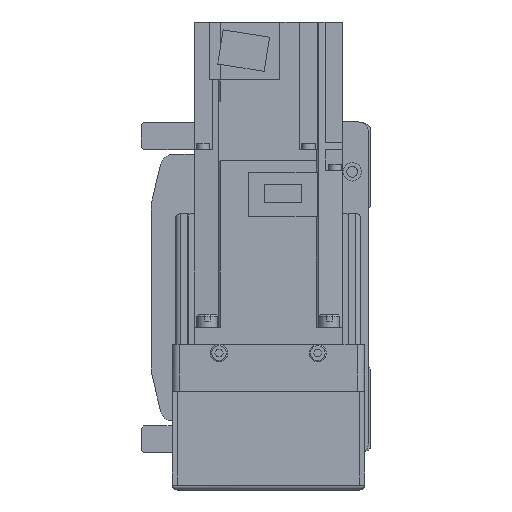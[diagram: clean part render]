
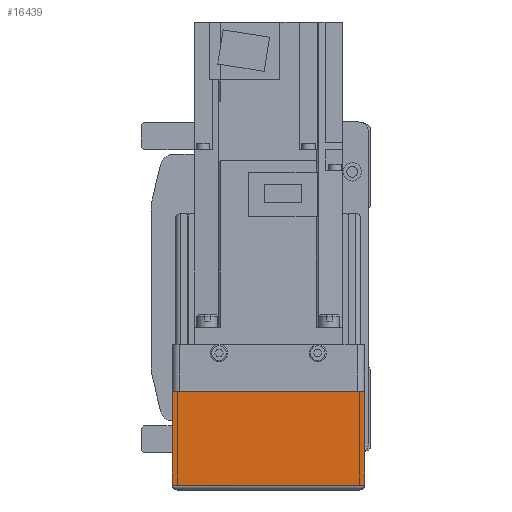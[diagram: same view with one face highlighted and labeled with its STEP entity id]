
A CAD part, left-side view. The second image highlights one B-rep face of the part: STEP entity #16439.
In plain terms, the highlighted planar face has unit normal (-1, 0, 0).
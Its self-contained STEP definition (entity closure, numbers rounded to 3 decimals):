
#2480=ORIENTED_EDGE('',*,*,#6633,.F.);
#2481=ORIENTED_EDGE('',*,*,#6634,.F.);
#2482=ORIENTED_EDGE('',*,*,#6635,.T.);
#2483=ORIENTED_EDGE('',*,*,#6636,.F.);
#6633=EDGE_CURVE('',#8808,#8799,#10505,.T.);
#6634=EDGE_CURVE('',#8825,#8808,#10506,.T.);
#6635=EDGE_CURVE('',#8825,#8826,#10507,.T.);
#6636=EDGE_CURVE('',#8799,#8826,#10508,.T.);
#8799=VERTEX_POINT('',#25284);
#8808=VERTEX_POINT('',#25302);
#8825=VERTEX_POINT('',#25350);
#8826=VERTEX_POINT('',#25352);
#10505=LINE('',#25348,#12085);
#10506=LINE('',#25349,#12086);
#10507=LINE('',#25351,#12087);
#10508=LINE('',#25353,#12088);
#12085=VECTOR('',#20293,1000.);
#12086=VECTOR('',#20294,1000.);
#12087=VECTOR('',#20295,1000.);
#12088=VECTOR('',#20296,1000.);
#13497=EDGE_LOOP('',(#2480,#2481,#2482,#2483));
#14697=FACE_BOUND('',#13497,.T.);
#15738=PLANE('',#17617);
#16439=ADVANCED_FACE('',(#14697),#15738,.F.);
#17617=AXIS2_PLACEMENT_3D('',#25347,#20291,#20292);
#20291=DIRECTION('',(1.,0.,0.));
#20292=DIRECTION('',(0.,0.,-1.));
#20293=DIRECTION('',(0.,-1.,0.));
#20294=DIRECTION('',(0.,0.,1.));
#20295=DIRECTION('',(0.,-1.,0.));
#20296=DIRECTION('',(0.,0.,-1.));
#25284=CARTESIAN_POINT('',(-158.,-39.,-12.1));
#25302=CARTESIAN_POINT('',(-158.,39.,-12.1));
#25347=CARTESIAN_POINT('',(-158.,36.,7.));
#25348=CARTESIAN_POINT('',(-158.,50.,-12.1));
#25349=CARTESIAN_POINT('',(-158.,39.,-50.));
#25350=CARTESIAN_POINT('',(-158.,39.,-50.));
#25351=CARTESIAN_POINT('',(-158.,40.,-50.));
#25352=CARTESIAN_POINT('',(-158.,-39.,-50.));
#25353=CARTESIAN_POINT('',(-158.,-39.,-12.1));
